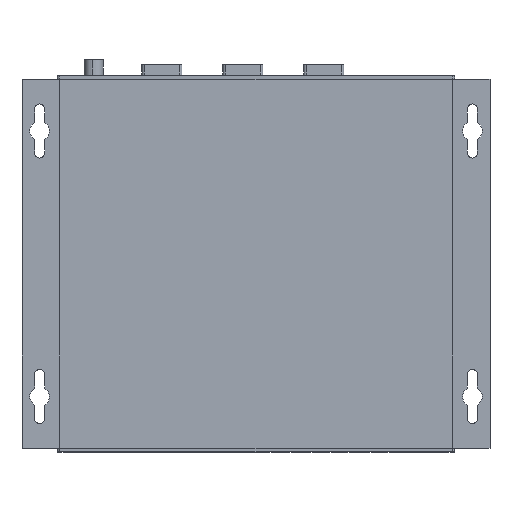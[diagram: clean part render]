
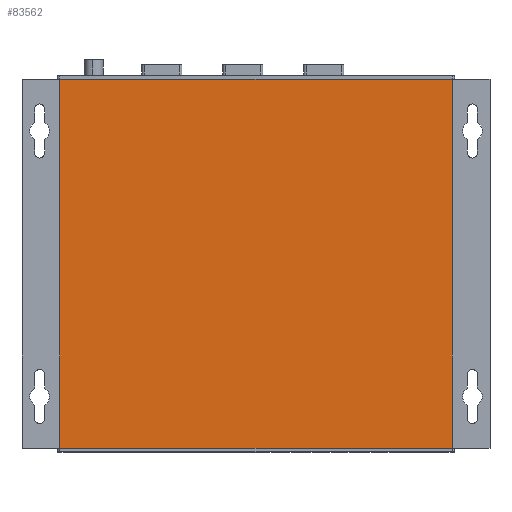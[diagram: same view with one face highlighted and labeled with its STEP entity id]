
A CAD part, top view. The second image highlights one B-rep face of the part: STEP entity #83562.
In plain terms, the highlighted planar face has unit normal (0, 0, 1).
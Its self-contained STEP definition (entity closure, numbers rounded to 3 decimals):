
#8453 = EDGE_CURVE ( 'NONE', #26680, #62710, #167995, .T. ) ;
#12156 = CARTESIAN_POINT ( 'NONE',  ( 79.754, 150., -0.005 ) ) ;
#20286 = PLANE ( 'NONE',  #173980 ) ;
#26680 = VERTEX_POINT ( 'NONE', #87812 ) ;
#32542 = LINE ( 'NONE', #133300, #90450 ) ;
#40630 = DIRECTION ( 'NONE',  ( 0., -1., 0. ) ) ;
#57529 = CARTESIAN_POINT ( 'NONE',  ( -79.746, 0., -0.005 ) ) ;
#62710 = VERTEX_POINT ( 'NONE', #12156 ) ;
#68549 = VERTEX_POINT ( 'NONE', #195793 ) ;
#75060 = VECTOR ( 'NONE', #219430, 1000. ) ;
#79377 = ORIENTED_EDGE ( 'NONE', *, *, #91141, .T. ) ;
#80373 = VERTEX_POINT ( 'NONE', #183713 ) ;
#83013 = EDGE_LOOP ( 'NONE', ( #203863, #159555, #121230, #79377 ) ) ;
#83562 = ADVANCED_FACE ( 'NONE', ( #169171 ), #20286, .F. ) ;
#87433 = CARTESIAN_POINT ( 'NONE',  ( -79.746, 150., -0.005 ) ) ;
#87812 = CARTESIAN_POINT ( 'NONE',  ( -79.746, 150., -0.005 ) ) ;
#90450 = VECTOR ( 'NONE', #188058, 1000. ) ;
#91141 = EDGE_CURVE ( 'NONE', #26680, #80373, #32542, .T. ) ;
#98632 = CARTESIAN_POINT ( 'NONE',  ( -79.746, 150., -0.005 ) ) ;
#103251 = VECTOR ( 'NONE', #40630, 1000. ) ;
#104590 = DIRECTION ( 'NONE',  ( 1., 0., 0. ) ) ;
#121230 = ORIENTED_EDGE ( 'NONE', *, *, #8453, .F. ) ;
#133300 = CARTESIAN_POINT ( 'NONE',  ( -79.746, 150., -0.005 ) ) ;
#138966 = DIRECTION ( 'NONE',  ( 0., 0., -1. ) ) ;
#159555 = ORIENTED_EDGE ( 'NONE', *, *, #160941, .F. ) ;
#160941 = EDGE_CURVE ( 'NONE', #62710, #68549, #210731, .T. ) ;
#167995 = LINE ( 'NONE', #98632, #75060 ) ;
#169171 = FACE_OUTER_BOUND ( 'NONE', #83013, .T. ) ;
#170290 = DIRECTION ( 'NONE',  ( -1., 0., 0. ) ) ;
#173980 = AXIS2_PLACEMENT_3D ( 'NONE', #87433, #138966, #170290 ) ;
#183713 = CARTESIAN_POINT ( 'NONE',  ( -79.746, 0., -0.005 ) ) ;
#188058 = DIRECTION ( 'NONE',  ( 0., -1., 0. ) ) ;
#193928 = CARTESIAN_POINT ( 'NONE',  ( 79.754, 150., -0.005 ) ) ;
#194847 = VECTOR ( 'NONE', #104590, 1000. ) ;
#195793 = CARTESIAN_POINT ( 'NONE',  ( 79.754, 0., -0.005 ) ) ;
#203863 = ORIENTED_EDGE ( 'NONE', *, *, #204704, .T. ) ;
#204704 = EDGE_CURVE ( 'NONE', #80373, #68549, #210818, .T. ) ;
#210731 = LINE ( 'NONE', #193928, #103251 ) ;
#210818 = LINE ( 'NONE', #57529, #194847 ) ;
#219430 = DIRECTION ( 'NONE',  ( 1., 0., 0. ) ) ;
